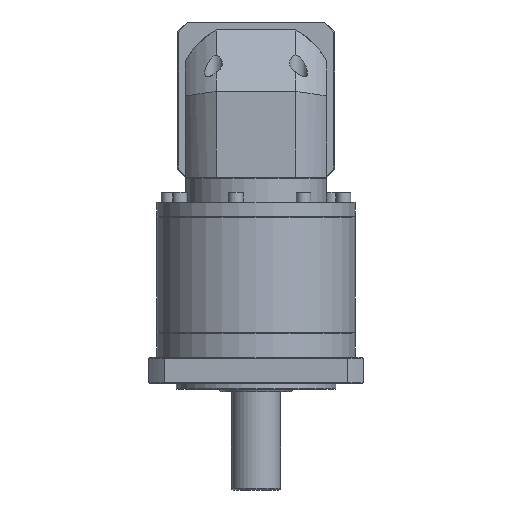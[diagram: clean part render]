
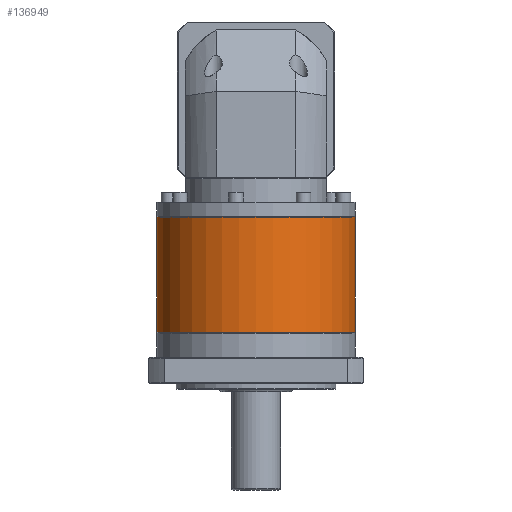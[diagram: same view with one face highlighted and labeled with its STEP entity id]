
A CAD part, front view. The second image highlights one B-rep face of the part: STEP entity #136949.
In plain terms, the highlighted cylindrical face has radius 81 mm (diameter 162 mm), a partial arc.
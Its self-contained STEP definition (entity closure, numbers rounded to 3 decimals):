
#2432 = LINE ( 'NONE', #47713, #33632 ) ;
#3836 = DIRECTION ( 'NONE',  ( 0., 0., -1. ) ) ;
#5278 = DIRECTION ( 'NONE',  ( 0., 0., -1. ) ) ;
#6238 = CARTESIAN_POINT ( 'NONE',  ( -94.02, 88.454, -120.754 ) ) ;
#7057 = CARTESIAN_POINT ( 'NONE',  ( -175.02, 88.454, -214.754 ) ) ;
#14913 = CARTESIAN_POINT ( 'NONE',  ( -13.02, 88.454, -120.754 ) ) ;
#15102 = CYLINDRICAL_SURFACE ( 'NONE', #46225, 81. ) ;
#19400 = DIRECTION ( 'NONE',  ( 0., 0., -1. ) ) ;
#29184 = EDGE_CURVE ( 'NONE', #78851, #143673, #52593, .T. ) ;
#33632 = VECTOR ( 'NONE', #58893, 1000. ) ;
#33918 = DIRECTION ( 'NONE',  ( -1., 0., 0. ) ) ;
#43697 = ORIENTED_EDGE ( 'NONE', *, *, #29184, .T. ) ;
#46225 = AXIS2_PLACEMENT_3D ( 'NONE', #6238, #5278, #106203 ) ;
#47713 = CARTESIAN_POINT ( 'NONE',  ( -175.02, 88.454, -120.754 ) ) ;
#48448 = EDGE_CURVE ( 'NONE', #123863, #102355, #104125, .T. ) ;
#52593 = CIRCLE ( 'NONE', #117539, 81. ) ;
#56713 = CARTESIAN_POINT ( 'NONE',  ( -94.02, 88.454, -214.754 ) ) ;
#58893 = DIRECTION ( 'NONE',  ( 0., 0., -1. ) ) ;
#71596 = CARTESIAN_POINT ( 'NONE',  ( -13.02, 88.454, -121.254 ) ) ;
#76156 = DIRECTION ( 'NONE',  ( -1., 0., 0. ) ) ;
#78851 = VERTEX_POINT ( 'NONE', #71596 ) ;
#83941 = VECTOR ( 'NONE', #3836, 1000. ) ;
#86238 = ORIENTED_EDGE ( 'NONE', *, *, #109677, .F. ) ;
#89373 = DIRECTION ( 'NONE',  ( 0., 0., 1. ) ) ;
#91065 = CARTESIAN_POINT ( 'NONE',  ( -13.02, 88.454, -214.754 ) ) ;
#91616 = ORIENTED_EDGE ( 'NONE', *, *, #110068, .T. ) ;
#91624 = FACE_OUTER_BOUND ( 'NONE', #130513, .T. ) ;
#102355 = VERTEX_POINT ( 'NONE', #91065 ) ;
#104125 = CIRCLE ( 'NONE', #108147, 81. ) ;
#106203 = DIRECTION ( 'NONE',  ( -1., 0., 0. ) ) ;
#108147 = AXIS2_PLACEMENT_3D ( 'NONE', #56713, #89373, #33918 ) ;
#109677 = EDGE_CURVE ( 'NONE', #78851, #102355, #113494, .T. ) ;
#109699 = CARTESIAN_POINT ( 'NONE',  ( -94.02, 88.454, -121.254 ) ) ;
#110068 = EDGE_CURVE ( 'NONE', #143673, #123863, #2432, .T. ) ;
#113494 = LINE ( 'NONE', #14913, #83941 ) ;
#117539 = AXIS2_PLACEMENT_3D ( 'NONE', #109699, #19400, #76156 ) ;
#123863 = VERTEX_POINT ( 'NONE', #7057 ) ;
#126141 = ORIENTED_EDGE ( 'NONE', *, *, #48448, .T. ) ;
#127699 = CARTESIAN_POINT ( 'NONE',  ( -175.02, 88.454, -121.254 ) ) ;
#130513 = EDGE_LOOP ( 'NONE', ( #86238, #43697, #91616, #126141 ) ) ;
#136949 = ADVANCED_FACE ( 'NONE', ( #91624 ), #15102, .T. ) ;
#143673 = VERTEX_POINT ( 'NONE', #127699 ) ;
